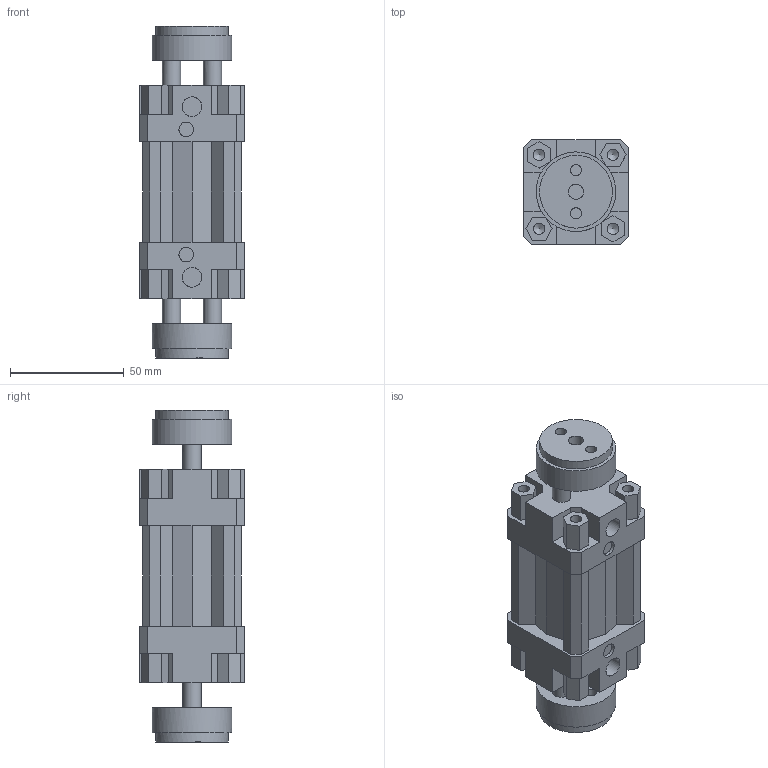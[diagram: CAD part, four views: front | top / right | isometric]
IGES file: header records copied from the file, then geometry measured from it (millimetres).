
Global section: file name: 132#_032_0000_06; native system: Autodesk Inventor 2014; preprocessor: unknown; author: A. Manieri; date: 20161006.154604; units: millimetre
Bounding box: 46 x 46 x 146 mm (x, y, z)
Volume: 180711 mm3; surface area: 54577.9 mm2
Topology: 2 solids, 2 shells, 190 faces, 518 edges, 354 vertices
Faces by surface type: bspline 190
